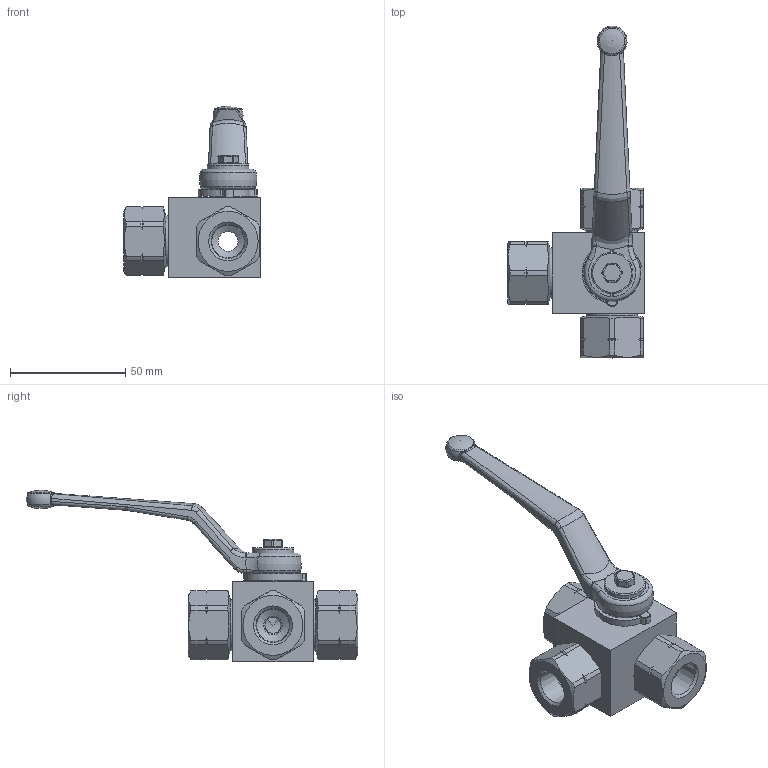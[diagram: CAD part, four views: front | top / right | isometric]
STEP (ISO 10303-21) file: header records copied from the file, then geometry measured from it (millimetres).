
FILE_DESCRIPTION( ( 'Unknown' ), '1' );
FILE_NAME( 'H:/PISTER/3D-MODELLE/BK3-Edelstahl stp/BK3-Edelst DN8 3_8 NPT.stp', 'Unknown', ( 'Unknown' ), ( 'Unknown' ), 'PSStep 14.0', 'Unknown', ' ' );
FILE_SCHEMA( ( 'AUTOMOTIVE_DESIGN { 1 0 10303 214 1 1 1 1 }' ) );
Length unit declared in the file: millimetre
Products named in the file (11): Assem1; 56-032-337-oa5; 09-09-003; 58-28740-16-oa6; 58-0440-009; 58-0933-235; 04-008-238-oa7; 04-008-238-oa8; 06-008-007-oa11; Griff_SW9; 01-008-020-oa12
Assembly tree (10 placements, depth 2):
  Assem1
    56-032-337-oa5
    09-09-003
    58-28740-16-oa6
    58-0440-009
    58-0933-235
    04-008-238-oa7
    04-008-238-oa8
    06-008-007-oa11
    Griff_SW9
    01-008-020-oa12
Bounding box: 59.3 x 143.8 x 74.4 mm (x, y, z)
Volume: 73729.1 mm3; surface area: 30681.4 mm2
Topology: 10 solids, 10 shells, 402 faces, 1038 edges, 659 vertices
Faces by surface type: cylinder 140, plane 117, cone 71, bspline 36, torus 34, sphere 4
Full cylindrical faces by diameter (mm): 4.134 x1, 4.98 x1, 5 x1, 5.8 x1, 7 x1, 8 x1, 14 x2, 14.153 x3, 17.1 x1, 18 x1, 18.376 x1, 18.5 x1, 20 x5, 20.3 x3, 22 x3, 22.5 x3
Entity records: 16305 total; most frequent: CARTESIAN_POINT 4559, ORIENTED_EDGE 1846, DIRECTION 1838, EDGE_CURVE 923, AXIS2_PLACEMENT_3D 754, VERTEX_POINT 620, EDGE_LOOP 499, FACE_OUTER_BOUND 441
